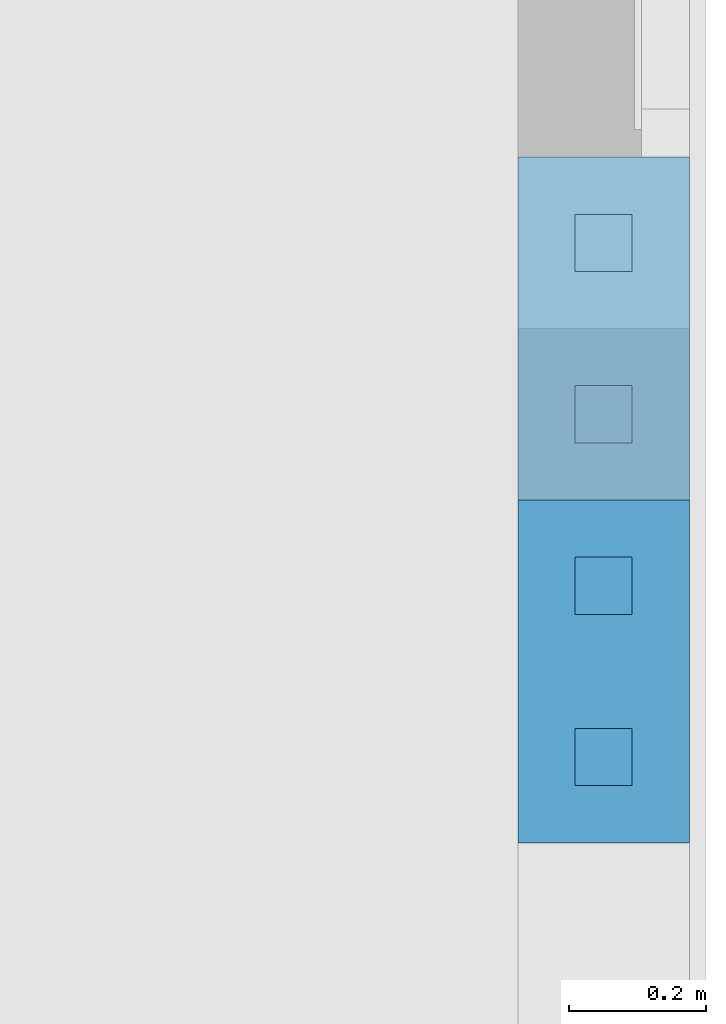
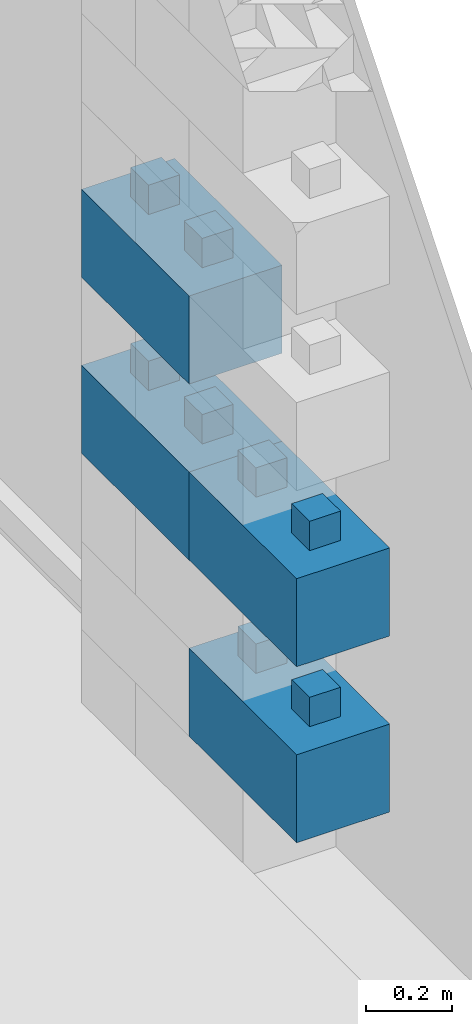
# One storey, part 2 of 8: 4 walls.
"""IFC4 building model written with IfcOpenShell, lengths in centimetres."""

import ifcopenshell
import ifcopenshell.guid

model = None  # the IFC model being written
_history = None  # IfcOwnerHistory: only IFC2X3 demands one
_inside = {}  # id of a spatial element -> (the spatial element, [elements in it])
_under = {}  # id of a project, library or spatial element -> (it, [spatial elements below it])
_declared = {}  # id of a project -> (the project, [libraries it declares])
_typed = {}  # id of a type object -> (the type object, [elements of that type])
_made_of = {}  # id of a material, layer set ... -> (it, [elements and type objects made of it])


def new_model(schema):
    """Start an empty IFC model of exactly this schema.

    Asked for "IFC4X3", IfcOpenShell would pick the latest addendum, in which some entities
    have other attributes; the version numbers below select the first issue.
    IFC2X3 requires an IfcOwnerHistory on every rooted entity: one is made here for all.
    """
    global model, _history
    if schema == "IFC4X3":
        model = ifcopenshell.file(schema_version=(4, 3, 0, 0))
    else:
        model = ifcopenshell.file(schema=schema)
    _inside.clear()
    _under.clear()
    _declared.clear()
    _typed.clear()
    _made_of.clear()
    _history = None
    if model.schema == "IFC2X3":
        org = make("IfcOrganization", Name="unknown")
        user = make(
            "IfcPersonAndOrganization",
            ThePerson=make("IfcPerson", FamilyName="unknown"),
            TheOrganization=org,
        )
        app = make(
            "IfcApplication",
            ApplicationDeveloper=org,
            Version="unknown",
            ApplicationFullName="unknown",
            ApplicationIdentifier="unknown",
        )
        _history = make(
            "IfcOwnerHistory",
            OwningUser=user,
            OwningApplication=app,
            ChangeAction="ADDED",
            CreationDate=0,
        )
    return model


def make(cls, **values):
    """One entity of the class cls with the attributes given. An attribute that is None is left unset."""
    return model.create_entity(
        cls, **{name: value for name, value in values.items() if value is not None}
    )


def entity(cls, *values):
    """Any entity or typed value of the class cls, its attributes in the order of the schema. None: left unset."""
    e = model.create_entity(cls)
    for i, value in enumerate(values):
        if value is not None:
            e[i] = value
    return e


def rooted(cls, **values):
    """An entity with a GlobalId (a new one), such as an element, a storey or a relation."""
    return make(cls, GlobalId=ifcopenshell.guid.new(), OwnerHistory=_history, **values)


def si_unit(unit_type, name, prefix=None):
    """IfcSIUnit, for example si_unit("LENGTHUNIT", "METRE", prefix="MILLI")."""
    return make("IfcSIUnit", UnitType=unit_type, Prefix=prefix, Name=name)


def converted_unit(unit_type, name, factor, base, dimensions=None, offset=None):
    """IfcConversionBasedUnit, such as the inch: factor (a typed value) times the base unit."""
    return make(
        "IfcConversionBasedUnit"
        if offset is None
        else "IfcConversionBasedUnitWithOffset",
        ConversionOffset=offset,
        Dimensions=None
        if dimensions is None
        else entity("IfcDimensionalExponents", *dimensions),
        UnitType=unit_type,
        Name=name,
        ConversionFactor=make(
            "IfcMeasureWithUnit", ValueComponent=factor, UnitComponent=base
        ),
    )


def assignment(units):
    """IfcUnitAssignment: the units of a project."""
    return None if units is None else make("IfcUnitAssignment", Units=units)


def point(xyz):
    """IfcCartesianPoint."""
    return None if xyz is None else make("IfcCartesianPoint", Coordinates=xyz)


def direction(xyz):
    """IfcDirection."""
    return None if xyz is None else make("IfcDirection", DirectionRatios=xyz)


def frame(location, z_axis=None, x_axis=None):
    """IfcAxis2Placement3D, a coordinate frame: its origin and axes. An axis left out is left unset."""
    return make(
        "IfcAxis2Placement3D",
        Location=point(location),
        Axis=direction(z_axis),
        RefDirection=direction(x_axis),
    )


def origin():
    """The frame at (0, 0, 0) with its axes left unset."""
    return frame((0.0, 0.0, 0.0))


def place(relative_to, where):
    """IfcLocalPlacement: puts the frame where relative to a parent placement (None: the world)."""
    return make(
        "IfcLocalPlacement", PlacementRelTo=relative_to, RelativePlacement=where
    )


def context(
    kind, dimensions, precision=None, world=None, true_north=None, identifier=None
):
    """IfcGeometricRepresentationContext, for example the 3D "Model" context."""
    return make(
        "IfcGeometricRepresentationContext",
        ContextIdentifier=identifier,
        ContextType=kind,
        CoordinateSpaceDimension=dimensions,
        Precision=precision,
        WorldCoordinateSystem=world,
        TrueNorth=true_north,
    )


def subcontext(parent, identifier, kind, view, scale=None):
    """IfcGeometricRepresentationSubContext, for example "Body" below "Model"."""
    return make(
        "IfcGeometricRepresentationSubContext",
        ContextIdentifier=identifier,
        ContextType=kind,
        ParentContext=parent,
        TargetScale=scale,
        TargetView=view,
    )


def project(units=None, contexts=None):
    """IfcProject with its units and contexts."""
    return rooted(
        "IfcProject",
        Name="project",
        RepresentationContexts=contexts,
        UnitsInContext=assignment(units),
    )


def spatial(cls, under=None, at=None, **own):
    """A site, building, storey or space (cls), placed at a placement, below another one or the project."""
    s = rooted(cls, ObjectPlacement=at, **own)
    if under is not None:
        _under.setdefault(under.id(), (under, []))[1].append(s)
    return s


def point_list(points):
    """IfcCartesianPointList2D or 3D."""
    cls = (
        "IfcCartesianPointList2D" if len(points[0]) == 2 else "IfcCartesianPointList3D"
    )
    return make(cls, CoordList=points)


def indexed_curve(points, segments=None, self_intersect=None):
    """IfcIndexedPolyCurve: lines and arcs through numbered points (the first is 1)."""
    return make(
        "IfcIndexedPolyCurve",
        Points=point_list(points),
        Segments=segments,
        SelfIntersect=self_intersect,
    )


def outline(outer, holes=None, kind="AREA"):
    """IfcArbitraryClosedProfileDef: a profile drawn as a closed curve; with holes, ...WithVoids."""
    if holes is None:
        return make("IfcArbitraryClosedProfileDef", ProfileType=kind, OuterCurve=outer)
    return make(
        "IfcArbitraryProfileDefWithVoids",
        ProfileType=kind,
        OuterCurve=outer,
        InnerCurves=holes,
    )


def extrude(swept, where, along, depth):
    """IfcExtrudedAreaSolid: the profile swept, set in the frame where, extruded along a direction by depth."""
    return make(
        "IfcExtrudedAreaSolid",
        SweptArea=swept,
        Position=where,
        ExtrudedDirection=direction(along),
        Depth=depth,
    )


def shape(context_of_items, identifier, shape_type, items):
    """IfcShapeRepresentation: the items that make up one representation, for example the "Body"."""
    return make(
        "IfcShapeRepresentation",
        ContextOfItems=context_of_items,
        RepresentationIdentifier=identifier,
        RepresentationType=shape_type,
        Items=items,
    )


def material(Name=None, Category=None):
    """IfcMaterial."""
    return make("IfcMaterial", Name=Name, Category=Category)


def made_of(thing, what):
    """Note that an element or type object is made of a material, layer set ...; save() writes the relation."""
    if what is not None:
        _made_of.setdefault(what.id(), (what, []))[1].append(thing)
    return thing


def type_object(cls, material=None, **own):
    """A type object (cls), such as IfcWallType, which elements share."""
    return made_of(rooted(cls, **own), material)


def element(
    cls,
    number,
    at=None,
    inside=None,
    cuts=None,
    type_object=None,
    material=None,
    context=None,
    identifier="Body",
    shape_type=None,
    held_by="IfcProductDefinitionShape",
    body=None,
    shapes=None,
    **own,
):
    """One element of the class cls, such as IfcWall. Its Tag is "e" and its number.

    at: its placement. inside: the storey or other place that contains it. cuts: it is an
    opening in that element (IfcRelVoidsElement). A single representation is given by context,
    identifier, shape_type and body (its items); several are given by shapes. held_by: the class
    of the entity that holds the representations. save() writes the other relations.
    """
    e = rooted(cls, Tag="e%d" % number, ObjectPlacement=at, **own)
    if body is not None:
        shapes = [shape(context, identifier, shape_type, body)]
    if shapes is not None:
        e.Representation = make(held_by, Representations=shapes)
    if inside is not None:
        _inside.setdefault(inside.id(), (inside, []))[1].append(e)
    if cuts is not None:
        rooted(
            "IfcRelVoidsElement", RelatingBuildingElement=cuts, RelatedOpeningElement=e
        )
    if type_object is not None:
        _typed.setdefault(type_object.id(), (type_object, []))[1].append(e)
    return made_of(e, material)


def aggregate(whole, parts):
    """IfcRelAggregates: a whole, such as a stair, and the parts it consists of."""
    return rooted("IfcRelAggregates", RelatingObject=whole, RelatedObjects=parts)


def save(model, path):
    """Write the relations noted so far, then the file.

    IfcRelAggregates (storeys below a building ...), IfcRelContainedInSpatialStructure (elements
    in a storey), IfcRelDefinesByType, IfcRelAssociatesMaterial and IfcRelDeclares: one each for
    every whole, place, type object, material and project.
    """
    for whole, parts in _under.values():
        aggregate(whole, parts)
    for where, things in _inside.values():
        rooted(
            "IfcRelContainedInSpatialStructure",
            RelatedElements=things,
            RelatingStructure=where,
        )
    for kind, things in _typed.values():
        rooted("IfcRelDefinesByType", RelatedObjects=things, RelatingType=kind)
    for what, things in _made_of.values():
        rooted("IfcRelAssociatesMaterial", RelatedObjects=things, RelatingMaterial=what)
    for by, libraries in _declared.values():
        rooted("IfcRelDeclares", RelatingContext=by, RelatedDefinitions=libraries)
    model.write(path)


model = new_model("IFC4")

# Units and contexts
model_context = context("Model", 3, precision=0.001, world=origin(), true_north=direction((0.0, 1.0)))
body_context = subcontext(model_context, "Body", "Model", "MODEL_VIEW")
ifc_project = project(units=[si_unit("LENGTHUNIT", "METRE", prefix="CENTI"), si_unit("AREAUNIT", "SQUARE_METRE"), si_unit("VOLUMEUNIT", "CUBIC_METRE"), converted_unit("PLANEANGLEUNIT", "DEGREE", entity("IfcPlaneAngleMeasure", 0.017453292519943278), si_unit("PLANEANGLEUNIT", "RADIAN"), dimensions=[0, 0, 0, 0, 0, 0, 0])], contexts=[model_context])

# Site, building, storey
site_placement = place(None, origin())
site = spatial("IfcSite", under=ifc_project, at=site_placement, Name="Default", CompositionType="ELEMENT")
building_placement = place(site_placement, origin())
building = spatial("IfcBuilding", under=site, at=building_placement, CompositionType="ELEMENT")
storey_placement = place(building_placement, frame((0.0, 0.0, -4.0)))
storey = spatial("IfcBuildingStorey", under=building, at=storey_placement, Name="L00__ABOVE Slab", CompositionType="ELEMENT", Elevation=-4.000000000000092)

# Walls
ifc_material = material(Name="Miscellaneous__Timber Block__Triqbriq, X", Category="Miscellaneous")
wall_type = type_object("IfcWallType", Name="Columns : wll_s__TIMBER BLOCK__Triqbriq, Full Width__wp : WS25", PredefinedType="SOLIDWALL", material=ifc_material)
wall_1_placement = place(storey_placement, frame((3156.8289147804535, 2253.5200309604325, 125.0), z_axis=(0.0, 0.0, 1.0), x_axis=(0.0, 1.0, 0.0)))
element("IfcWall", 1, at=wall_1_placement, inside=storey, type_object=wall_type, material=ifc_material, Name="Columns : wll_s__TIMBER BLOCK__Triqbriq, Full Width__wp : WS25", PredefinedType="SOLIDWALL", context=body_context, shape_type="SweptSolid", body=[
    extrude(outline(indexed_curve([(-4.166666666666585, -4.166666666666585), (4.166666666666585, -4.166666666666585), (4.166666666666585, 4.166666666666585), (-4.166666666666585, 4.166666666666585), (-4.166666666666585, -4.166666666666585)], self_intersect=False)), frame((12.500000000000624, -12.500000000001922, 16.666666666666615)), (0.0, 0.0, 1.0), 16.66666666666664),
    extrude(outline(indexed_curve([(-4.166666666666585, -4.166666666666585), (4.166666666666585, -4.166666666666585), (4.166666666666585, 4.166666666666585), (-4.166666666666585, 4.166666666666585), (-4.166666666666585, -4.166666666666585)], self_intersect=False)), frame((37.50000000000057, -12.500000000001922, 16.66666666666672)), (0.0, 0.0, 1.0), 16.66666666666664),
    extrude(outline(indexed_curve([(-4.166666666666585, -4.166666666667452), (4.166666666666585, -4.166666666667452), (4.166666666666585, 4.166666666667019), (-4.166666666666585, 4.166666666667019), (-4.166666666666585, -4.166666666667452)], self_intersect=False)), frame((4.166666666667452, -4.166666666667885, 8.333333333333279)), (0.0, 0.0, 1.0), 8.333333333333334),
    extrude(outline(indexed_curve([(-4.166666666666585, -4.166666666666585), (4.166666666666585, -4.166666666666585), (4.166666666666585, 4.166666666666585), (-4.166666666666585, 4.166666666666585), (-4.166666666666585, -4.166666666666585)], self_intersect=False)), frame((4.166666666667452, -20.833333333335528, 8.333333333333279)), (0.0, 0.0, 1.0), 8.333333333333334),
    extrude(outline(indexed_curve([(-4.166666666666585, -4.166666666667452), (4.166666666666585, -4.166666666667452), (4.166666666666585, 4.166666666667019), (-4.166666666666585, 4.166666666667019), (-4.166666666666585, -4.166666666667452)], self_intersect=False)), frame((45.833333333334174, -4.166666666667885, 8.333333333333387)), (0.0, 0.0, 1.0), 8.333333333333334),
    extrude(outline(indexed_curve([(-4.166666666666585, -4.166666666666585), (4.166666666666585, -4.166666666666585), (4.166666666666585, 4.166666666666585), (-4.166666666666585, 4.166666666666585), (-4.166666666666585, -4.166666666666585)], self_intersect=False)), frame((45.833333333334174, -20.833333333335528, 8.333333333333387)), (0.0, 0.0, 1.0), 8.333333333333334),
    extrude(outline(indexed_curve([(-8.333333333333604, -4.166666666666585), (8.33333333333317, -4.166666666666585), (8.33333333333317, 4.166666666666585), (-8.333333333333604, 4.166666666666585), (-8.333333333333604, -4.166666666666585)], self_intersect=False)), frame((25.0, -20.833333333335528, 8.333333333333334)), (0.0, 0.0, 1.0), 8.333333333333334),
    extrude(outline(indexed_curve([(-8.333333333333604, -4.166666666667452), (8.33333333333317, -4.166666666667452), (8.33333333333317, 4.166666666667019), (-8.333333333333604, 4.166666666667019), (-8.333333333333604, -4.166666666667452)], self_intersect=False)), frame((25.0, -4.166666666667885, 8.333333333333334)), (0.0, 0.0, 1.0), 8.333333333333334),
    extrude(outline(indexed_curve([(-24.999999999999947, -4.166666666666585), (24.999999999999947, -4.166666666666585), (24.999999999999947, 4.166666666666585), (-24.999999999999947, 4.166666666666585), (-24.999999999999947, -4.166666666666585)], self_intersect=False)), frame((25.0, -12.500000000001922, 8.333333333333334)), (0.0, 0.0, 1.0), 8.333333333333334),
    extrude(outline(indexed_curve([(-4.166666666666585, -12.50000000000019), (4.166666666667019, -12.50000000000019), (4.166666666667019, 12.500000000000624), (-4.166666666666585, 12.500000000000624), (-4.166666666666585, -12.50000000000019)], self_intersect=False)), frame((20.83333333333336, -12.500000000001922, 0.0)), (0.0, 0.0, 1.0), 8.333333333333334),
    extrude(outline(indexed_curve([(-4.166666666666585, -12.50000000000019), (4.166666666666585, -12.50000000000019), (4.166666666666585, 12.500000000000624), (-4.166666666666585, 12.500000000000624), (-4.166666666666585, -12.50000000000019)], self_intersect=False)), frame((29.166666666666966, -12.500000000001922, 0.0)), (0.0, 0.0, 1.0), 8.333333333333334),
    extrude(outline(indexed_curve([(-4.166666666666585, -12.50000000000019), (4.166666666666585, -12.50000000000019), (4.166666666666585, 12.500000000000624), (-4.166666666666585, 12.500000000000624), (-4.166666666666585, -12.50000000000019)], self_intersect=False)), frame((4.166666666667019, -12.500000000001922, 0.0)), (0.0, 0.0, 1.0), 8.333333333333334),
    extrude(outline(indexed_curve([(-4.166666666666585, -12.50000000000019), (4.166666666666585, -12.50000000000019), (4.166666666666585, 12.500000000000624), (-4.166666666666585, 12.500000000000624), (-4.166666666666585, -12.50000000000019)], self_intersect=False)), frame((45.83333333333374, -12.500000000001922, 0.0)), (0.0, 0.0, 1.0), 8.333333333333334),
    extrude(outline(indexed_curve([(-4.166666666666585, -4.166666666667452), (4.166666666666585, -4.166666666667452), (4.166666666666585, 4.166666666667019), (-4.166666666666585, 4.166666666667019), (-4.166666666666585, -4.166666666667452)], self_intersect=False)), frame((12.50000000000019, -4.166666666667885, 0.0)), (0.0, 0.0, 1.0), 24.999999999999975),
    extrude(outline(indexed_curve([(-4.166666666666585, -4.166666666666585), (4.166666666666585, -4.166666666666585), (4.166666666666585, 4.166666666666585), (-4.166666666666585, 4.166666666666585), (-4.166666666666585, -4.166666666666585)], self_intersect=False)), frame((12.50000000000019, -20.833333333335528, 0.0)), (0.0, 0.0, 1.0), 24.999999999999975),
    extrude(outline(indexed_curve([(-4.166666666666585, -4.166666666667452), (4.166666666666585, -4.166666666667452), (4.166666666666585, 4.166666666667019), (-4.166666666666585, 4.166666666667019), (-4.166666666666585, -4.166666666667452)], self_intersect=False)), frame((37.500000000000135, -4.166666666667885, 0.0)), (0.0, 0.0, 1.0), 24.999999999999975),
    extrude(outline(indexed_curve([(-4.166666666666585, -4.166666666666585), (4.166666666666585, -4.166666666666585), (4.166666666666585, 4.166666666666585), (-4.166666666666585, 4.166666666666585), (-4.166666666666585, -4.166666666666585)], self_intersect=False)), frame((37.500000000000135, -20.833333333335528, 0.0)), (0.0, 0.0, 1.0), 24.999999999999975),
    extrude(outline(indexed_curve([(-4.166666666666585, -12.50000000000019), (4.166666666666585, -12.50000000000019), (4.166666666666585, 12.500000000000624), (-4.166666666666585, 12.500000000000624), (-4.166666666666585, -12.50000000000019)], self_intersect=False)), frame((4.166666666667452, -12.500000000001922, 16.666666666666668)), (0.0, 0.0, 1.0), 8.333333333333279),
    extrude(outline(indexed_curve([(-4.166666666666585, -12.50000000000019), (4.166666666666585, -12.50000000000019), (4.166666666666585, 12.500000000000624), (-4.166666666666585, 12.500000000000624), (-4.166666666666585, -12.50000000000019)], self_intersect=False)), frame((20.833333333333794, -12.500000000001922, 16.66666666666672)), (0.0, 0.0, 1.0), 8.333333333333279),
    extrude(outline(indexed_curve([(-4.166666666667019, -12.50000000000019), (4.166666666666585, -12.50000000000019), (4.166666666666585, 12.500000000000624), (-4.166666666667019, 12.500000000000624), (-4.166666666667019, -12.50000000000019)], self_intersect=False)), frame((29.1666666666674, -12.500000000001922, 16.66666666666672)), (0.0, 0.0, 1.0), 8.333333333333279),
    extrude(outline(indexed_curve([(-4.166666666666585, -12.50000000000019), (4.166666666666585, -12.50000000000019), (4.166666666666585, 12.500000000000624), (-4.166666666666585, 12.500000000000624), (-4.166666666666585, -12.50000000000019)], self_intersect=False)), frame((45.833333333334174, -12.500000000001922, 16.666666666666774)), (0.0, 0.0, 1.0), 8.333333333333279),
])
wall_2_placement = place(storey_placement, frame((3156.828914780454, 2203.5200309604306, 75.0), z_axis=(0.0, 0.0, 1.0), x_axis=(0.0, 1.0, 0.0)))
element("IfcWall", 2, at=wall_2_placement, inside=storey, type_object=wall_type, material=ifc_material, Name="Columns : wll_s__TIMBER BLOCK__Triqbriq, Full Width__wp : WS25", PredefinedType="SOLIDWALL", context=body_context, shape_type="SweptSolid", body=[
    extrude(outline(indexed_curve([(-4.166666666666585, -4.166666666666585), (4.166666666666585, -4.166666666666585), (4.166666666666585, 4.166666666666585), (-4.166666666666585, 4.166666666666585), (-4.166666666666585, -4.166666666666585)], self_intersect=False)), frame((12.500000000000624, -12.500000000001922, 16.666666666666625)), (0.0, 0.0, 1.0), 16.66666666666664),
    extrude(outline(indexed_curve([(-4.166666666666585, -4.166666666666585), (4.166666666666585, -4.166666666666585), (4.166666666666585, 4.166666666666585), (-4.166666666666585, 4.166666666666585), (-4.166666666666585, -4.166666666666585)], self_intersect=False)), frame((37.50000000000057, -12.500000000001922, 16.66666666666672)), (0.0, 0.0, 1.0), 16.66666666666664),
    extrude(outline(indexed_curve([(-4.166666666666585, -4.166666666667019), (4.166666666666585, -4.166666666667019), (4.166666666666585, 4.166666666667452), (-4.166666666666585, 4.166666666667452), (-4.166666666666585, -4.166666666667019)], self_intersect=False)), frame((4.166666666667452, -4.166666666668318, 8.333333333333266)), (0.0, 0.0, 1.0), 8.333333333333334),
    extrude(outline(indexed_curve([(-4.166666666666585, -4.166666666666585), (4.166666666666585, -4.166666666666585), (4.166666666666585, 4.166666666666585), (-4.166666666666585, 4.166666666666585), (-4.166666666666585, -4.166666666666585)], self_intersect=False)), frame((4.166666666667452, -20.833333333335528, 8.333333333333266)), (0.0, 0.0, 1.0), 8.333333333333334),
    extrude(outline(indexed_curve([(-4.166666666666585, -4.166666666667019), (4.166666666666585, -4.166666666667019), (4.166666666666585, 4.166666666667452), (-4.166666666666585, 4.166666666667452), (-4.166666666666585, -4.166666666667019)], self_intersect=False)), frame((45.833333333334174, -4.166666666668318, 8.333333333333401)), (0.0, 0.0, 1.0), 8.333333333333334),
    extrude(outline(indexed_curve([(-4.166666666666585, -4.166666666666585), (4.166666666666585, -4.166666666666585), (4.166666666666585, 4.166666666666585), (-4.166666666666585, 4.166666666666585), (-4.166666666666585, -4.166666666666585)], self_intersect=False)), frame((45.833333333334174, -20.833333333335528, 8.333333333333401)), (0.0, 0.0, 1.0), 8.333333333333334),
    extrude(outline(indexed_curve([(-8.33333333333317, -4.166666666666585), (8.333333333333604, -4.166666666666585), (8.333333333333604, 4.166666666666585), (-8.33333333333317, 4.166666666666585), (-8.33333333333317, -4.166666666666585)], self_intersect=False)), frame((25.0, -20.833333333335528, 8.333333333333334)), (0.0, 0.0, 1.0), 8.333333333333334),
    extrude(outline(indexed_curve([(-8.33333333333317, -4.166666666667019), (8.333333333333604, -4.166666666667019), (8.333333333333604, 4.166666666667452), (-8.33333333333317, 4.166666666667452), (-8.33333333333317, -4.166666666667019)], self_intersect=False)), frame((25.0, -4.166666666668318, 8.333333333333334)), (0.0, 0.0, 1.0), 8.333333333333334),
    extrude(outline(indexed_curve([(-24.999999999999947, -4.166666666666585), (24.999999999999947, -4.166666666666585), (24.999999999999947, 4.166666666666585), (-24.999999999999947, 4.166666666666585), (-24.999999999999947, -4.166666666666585)], self_intersect=False)), frame((25.0, -12.500000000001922, 8.333333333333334)), (0.0, 0.0, 1.0), 8.333333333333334),
    extrude(outline(indexed_curve([(-4.166666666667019, -12.50000000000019), (4.166666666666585, -12.50000000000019), (4.166666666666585, 12.500000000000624), (-4.166666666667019, 12.500000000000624), (-4.166666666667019, -12.50000000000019)], self_intersect=False)), frame((20.833333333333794, -12.500000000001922, 0.0)), (0.0, 0.0, 1.0), 8.333333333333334),
    extrude(outline(indexed_curve([(-4.166666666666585, -12.50000000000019), (4.166666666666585, -12.50000000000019), (4.166666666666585, 12.500000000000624), (-4.166666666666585, 12.500000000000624), (-4.166666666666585, -12.50000000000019)], self_intersect=False)), frame((29.166666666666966, -12.500000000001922, 0.0)), (0.0, 0.0, 1.0), 8.333333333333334),
    extrude(outline(indexed_curve([(-4.166666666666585, -12.50000000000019), (4.166666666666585, -12.50000000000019), (4.166666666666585, 12.500000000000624), (-4.166666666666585, 12.500000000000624), (-4.166666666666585, -12.50000000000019)], self_intersect=False)), frame((4.166666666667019, -12.500000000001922, 0.0)), (0.0, 0.0, 1.0), 8.333333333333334),
    extrude(outline(indexed_curve([(-4.166666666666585, -12.50000000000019), (4.166666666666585, -12.50000000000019), (4.166666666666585, 12.500000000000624), (-4.166666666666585, 12.500000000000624), (-4.166666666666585, -12.50000000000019)], self_intersect=False)), frame((45.83333333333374, -12.500000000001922, 0.0)), (0.0, 0.0, 1.0), 8.333333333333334),
    extrude(outline(indexed_curve([(-4.166666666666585, -4.166666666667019), (4.166666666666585, -4.166666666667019), (4.166666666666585, 4.166666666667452), (-4.166666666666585, 4.166666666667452), (-4.166666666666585, -4.166666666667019)], self_intersect=False)), frame((12.50000000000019, -4.166666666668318, 0.0)), (0.0, 0.0, 1.0), 24.999999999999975),
    extrude(outline(indexed_curve([(-4.166666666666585, -4.166666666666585), (4.166666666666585, -4.166666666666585), (4.166666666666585, 4.166666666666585), (-4.166666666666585, 4.166666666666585), (-4.166666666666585, -4.166666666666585)], self_intersect=False)), frame((12.50000000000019, -20.833333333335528, 0.0)), (0.0, 0.0, 1.0), 24.999999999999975),
    extrude(outline(indexed_curve([(-4.166666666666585, -4.166666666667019), (4.166666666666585, -4.166666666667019), (4.166666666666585, 4.166666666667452), (-4.166666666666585, 4.166666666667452), (-4.166666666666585, -4.166666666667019)], self_intersect=False)), frame((37.500000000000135, -4.166666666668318, 0.0)), (0.0, 0.0, 1.0), 24.999999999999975),
    extrude(outline(indexed_curve([(-4.166666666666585, -4.166666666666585), (4.166666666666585, -4.166666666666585), (4.166666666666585, 4.166666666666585), (-4.166666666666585, 4.166666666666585), (-4.166666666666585, -4.166666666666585)], self_intersect=False)), frame((37.500000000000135, -20.833333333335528, 0.0)), (0.0, 0.0, 1.0), 24.999999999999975),
    extrude(outline(indexed_curve([(-4.166666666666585, -12.50000000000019), (4.166666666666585, -12.50000000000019), (4.166666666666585, 12.500000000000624), (-4.166666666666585, 12.500000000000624), (-4.166666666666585, -12.50000000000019)], self_intersect=False)), frame((4.166666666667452, -12.500000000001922, 16.66666666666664)), (0.0, 0.0, 1.0), 8.333333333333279),
    extrude(outline(indexed_curve([(-4.166666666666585, -12.50000000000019), (4.166666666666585, -12.50000000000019), (4.166666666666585, 12.500000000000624), (-4.166666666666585, 12.500000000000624), (-4.166666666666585, -12.50000000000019)], self_intersect=False)), frame((20.833333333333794, -12.500000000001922, 16.66666666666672)), (0.0, 0.0, 1.0), 8.333333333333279),
    extrude(outline(indexed_curve([(-4.166666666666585, -12.50000000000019), (4.166666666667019, -12.50000000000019), (4.166666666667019, 12.500000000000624), (-4.166666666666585, 12.500000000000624), (-4.166666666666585, -12.50000000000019)], self_intersect=False)), frame((29.166666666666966, -12.500000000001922, 16.666666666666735)), (0.0, 0.0, 1.0), 8.333333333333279),
    extrude(outline(indexed_curve([(-4.166666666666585, -12.50000000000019), (4.166666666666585, -12.50000000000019), (4.166666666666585, 12.500000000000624), (-4.166666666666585, 12.500000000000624), (-4.166666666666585, -12.50000000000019)], self_intersect=False)), frame((45.833333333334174, -12.500000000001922, 16.66666666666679)), (0.0, 0.0, 1.0), 8.333333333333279),
])
wall_3_placement = place(storey_placement, frame((3156.828914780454, 2253.5200309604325, 75.0), z_axis=(0.0, 0.0, 1.0), x_axis=(0.0, 1.0, 0.0)))
element("IfcWall", 3, at=wall_3_placement, inside=storey, type_object=wall_type, material=ifc_material, Name="Columns : wll_s__TIMBER BLOCK__Triqbriq, Full Width__wp : WS25", PredefinedType="SOLIDWALL", context=body_context, shape_type="SweptSolid", body=[
    extrude(outline(indexed_curve([(-4.166666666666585, -4.166666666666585), (4.166666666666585, -4.166666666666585), (4.166666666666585, 4.166666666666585), (-4.166666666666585, 4.166666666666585), (-4.166666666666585, -4.166666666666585)], self_intersect=False)), frame((12.500000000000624, -12.500000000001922, 16.666666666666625)), (0.0, 0.0, 1.0), 16.66666666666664),
    extrude(outline(indexed_curve([(-4.166666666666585, -4.166666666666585), (4.166666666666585, -4.166666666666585), (4.166666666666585, 4.166666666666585), (-4.166666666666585, 4.166666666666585), (-4.166666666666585, -4.166666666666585)], self_intersect=False)), frame((37.50000000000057, -12.500000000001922, 16.66666666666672)), (0.0, 0.0, 1.0), 16.66666666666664),
    extrude(outline(indexed_curve([(-4.166666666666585, -4.166666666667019), (4.166666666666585, -4.166666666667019), (4.166666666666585, 4.166666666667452), (-4.166666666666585, 4.166666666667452), (-4.166666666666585, -4.166666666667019)], self_intersect=False)), frame((4.166666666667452, -4.166666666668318, 8.333333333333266)), (0.0, 0.0, 1.0), 8.333333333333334),
    extrude(outline(indexed_curve([(-4.166666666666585, -4.166666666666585), (4.166666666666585, -4.166666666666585), (4.166666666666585, 4.166666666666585), (-4.166666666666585, 4.166666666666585), (-4.166666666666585, -4.166666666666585)], self_intersect=False)), frame((4.166666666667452, -20.833333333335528, 8.333333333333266)), (0.0, 0.0, 1.0), 8.333333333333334),
    extrude(outline(indexed_curve([(-4.166666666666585, -4.166666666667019), (4.166666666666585, -4.166666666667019), (4.166666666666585, 4.166666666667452), (-4.166666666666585, 4.166666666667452), (-4.166666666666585, -4.166666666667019)], self_intersect=False)), frame((45.833333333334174, -4.166666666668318, 8.333333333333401)), (0.0, 0.0, 1.0), 8.333333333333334),
    extrude(outline(indexed_curve([(-4.166666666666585, -4.166666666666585), (4.166666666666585, -4.166666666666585), (4.166666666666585, 4.166666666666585), (-4.166666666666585, 4.166666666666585), (-4.166666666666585, -4.166666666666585)], self_intersect=False)), frame((45.833333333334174, -20.833333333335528, 8.333333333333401)), (0.0, 0.0, 1.0), 8.333333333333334),
    extrude(outline(indexed_curve([(-8.333333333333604, -4.166666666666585), (8.33333333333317, -4.166666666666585), (8.33333333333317, 4.166666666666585), (-8.333333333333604, 4.166666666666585), (-8.333333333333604, -4.166666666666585)], self_intersect=False)), frame((25.0, -20.833333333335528, 8.333333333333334)), (0.0, 0.0, 1.0), 8.333333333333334),
    extrude(outline(indexed_curve([(-8.333333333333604, -4.166666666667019), (8.33333333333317, -4.166666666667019), (8.33333333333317, 4.166666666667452), (-8.333333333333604, 4.166666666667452), (-8.333333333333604, -4.166666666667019)], self_intersect=False)), frame((25.0, -4.166666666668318, 8.333333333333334)), (0.0, 0.0, 1.0), 8.333333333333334),
    extrude(outline(indexed_curve([(-24.999999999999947, -4.166666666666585), (24.999999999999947, -4.166666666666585), (24.999999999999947, 4.166666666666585), (-24.999999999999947, 4.166666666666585), (-24.999999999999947, -4.166666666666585)], self_intersect=False)), frame((25.0, -12.500000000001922, 8.333333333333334)), (0.0, 0.0, 1.0), 8.333333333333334),
    extrude(outline(indexed_curve([(-4.166666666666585, -12.50000000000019), (4.166666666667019, -12.50000000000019), (4.166666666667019, 12.500000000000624), (-4.166666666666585, 12.500000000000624), (-4.166666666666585, -12.50000000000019)], self_intersect=False)), frame((20.83333333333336, -12.500000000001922, 0.0)), (0.0, 0.0, 1.0), 8.333333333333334),
    extrude(outline(indexed_curve([(-4.166666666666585, -12.50000000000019), (4.166666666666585, -12.50000000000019), (4.166666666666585, 12.500000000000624), (-4.166666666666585, 12.500000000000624), (-4.166666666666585, -12.50000000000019)], self_intersect=False)), frame((29.166666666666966, -12.500000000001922, 0.0)), (0.0, 0.0, 1.0), 8.333333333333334),
    extrude(outline(indexed_curve([(-4.166666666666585, -12.50000000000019), (4.166666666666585, -12.50000000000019), (4.166666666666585, 12.500000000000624), (-4.166666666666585, 12.500000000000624), (-4.166666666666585, -12.50000000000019)], self_intersect=False)), frame((4.166666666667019, -12.500000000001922, 0.0)), (0.0, 0.0, 1.0), 8.333333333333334),
    extrude(outline(indexed_curve([(-4.166666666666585, -12.50000000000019), (4.166666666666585, -12.50000000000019), (4.166666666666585, 12.500000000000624), (-4.166666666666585, 12.500000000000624), (-4.166666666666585, -12.50000000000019)], self_intersect=False)), frame((45.83333333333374, -12.500000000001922, 0.0)), (0.0, 0.0, 1.0), 8.333333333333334),
    extrude(outline(indexed_curve([(-4.166666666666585, -4.166666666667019), (4.166666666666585, -4.166666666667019), (4.166666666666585, 4.166666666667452), (-4.166666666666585, 4.166666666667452), (-4.166666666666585, -4.166666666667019)], self_intersect=False)), frame((12.50000000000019, -4.166666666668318, 0.0)), (0.0, 0.0, 1.0), 24.999999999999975),
    extrude(outline(indexed_curve([(-4.166666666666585, -4.166666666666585), (4.166666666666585, -4.166666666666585), (4.166666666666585, 4.166666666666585), (-4.166666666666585, 4.166666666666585), (-4.166666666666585, -4.166666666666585)], self_intersect=False)), frame((12.50000000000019, -20.833333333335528, 0.0)), (0.0, 0.0, 1.0), 24.999999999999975),
    extrude(outline(indexed_curve([(-4.166666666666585, -4.166666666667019), (4.166666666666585, -4.166666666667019), (4.166666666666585, 4.166666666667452), (-4.166666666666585, 4.166666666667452), (-4.166666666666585, -4.166666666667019)], self_intersect=False)), frame((37.500000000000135, -4.166666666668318, 0.0)), (0.0, 0.0, 1.0), 24.999999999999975),
    extrude(outline(indexed_curve([(-4.166666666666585, -4.166666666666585), (4.166666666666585, -4.166666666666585), (4.166666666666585, 4.166666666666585), (-4.166666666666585, 4.166666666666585), (-4.166666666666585, -4.166666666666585)], self_intersect=False)), frame((37.500000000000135, -20.833333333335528, 0.0)), (0.0, 0.0, 1.0), 24.999999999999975),
    extrude(outline(indexed_curve([(-4.166666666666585, -12.50000000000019), (4.166666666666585, -12.50000000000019), (4.166666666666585, 12.500000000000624), (-4.166666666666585, 12.500000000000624), (-4.166666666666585, -12.50000000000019)], self_intersect=False)), frame((4.166666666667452, -12.500000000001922, 16.66666666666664)), (0.0, 0.0, 1.0), 8.333333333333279),
    extrude(outline(indexed_curve([(-4.166666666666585, -12.50000000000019), (4.166666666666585, -12.50000000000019), (4.166666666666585, 12.500000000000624), (-4.166666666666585, 12.500000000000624), (-4.166666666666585, -12.50000000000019)], self_intersect=False)), frame((20.833333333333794, -12.500000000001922, 16.66666666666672)), (0.0, 0.0, 1.0), 8.333333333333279),
    extrude(outline(indexed_curve([(-4.166666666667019, -12.50000000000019), (4.166666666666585, -12.50000000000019), (4.166666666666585, 12.500000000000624), (-4.166666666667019, 12.500000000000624), (-4.166666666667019, -12.50000000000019)], self_intersect=False)), frame((29.1666666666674, -12.500000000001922, 16.666666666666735)), (0.0, 0.0, 1.0), 8.333333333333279),
    extrude(outline(indexed_curve([(-4.166666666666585, -12.50000000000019), (4.166666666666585, -12.50000000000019), (4.166666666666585, 12.500000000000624), (-4.166666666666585, 12.500000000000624), (-4.166666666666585, -12.50000000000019)], self_intersect=False)), frame((45.833333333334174, -12.500000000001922, 16.66666666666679)), (0.0, 0.0, 1.0), 8.333333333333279),
])
wall_4_placement = place(storey_placement, frame((3156.828914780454, 2203.5200309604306, 25.0), z_axis=(0.0, 0.0, 1.0), x_axis=(0.0, 1.0, 0.0)))
element("IfcWall", 4, at=wall_4_placement, inside=storey, type_object=wall_type, material=ifc_material, Name="Columns : wll_s__TIMBER BLOCK__Triqbriq, Full Width__wp : WS25", PredefinedType="SOLIDWALL", context=body_context, shape_type="SweptSolid", body=[
    extrude(outline(indexed_curve([(-4.166666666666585, -4.166666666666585), (4.166666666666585, -4.166666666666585), (4.166666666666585, 4.166666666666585), (-4.166666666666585, 4.166666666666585), (-4.166666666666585, -4.166666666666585)], self_intersect=False)), frame((12.500000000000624, -12.500000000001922, 16.66666666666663)), (0.0, 0.0, 1.0), 16.666666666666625),
    extrude(outline(indexed_curve([(-4.166666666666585, -4.166666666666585), (4.166666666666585, -4.166666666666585), (4.166666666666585, 4.166666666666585), (-4.166666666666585, 4.166666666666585), (-4.166666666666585, -4.166666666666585)], self_intersect=False)), frame((37.50000000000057, -12.500000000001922, 16.66666666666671)), (0.0, 0.0, 1.0), 16.666666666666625),
    extrude(outline(indexed_curve([(-4.166666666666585, -4.166666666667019), (4.166666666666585, -4.166666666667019), (4.166666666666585, 4.166666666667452), (-4.166666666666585, 4.166666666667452), (-4.166666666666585, -4.166666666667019)], self_intersect=False)), frame((4.166666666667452, -4.166666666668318, 8.33333333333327)), (0.0, 0.0, 1.0), 8.333333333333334),
    extrude(outline(indexed_curve([(-4.166666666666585, -4.166666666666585), (4.166666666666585, -4.166666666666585), (4.166666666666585, 4.166666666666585), (-4.166666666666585, 4.166666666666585), (-4.166666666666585, -4.166666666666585)], self_intersect=False)), frame((4.166666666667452, -20.833333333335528, 8.33333333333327)), (0.0, 0.0, 1.0), 8.333333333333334),
    extrude(outline(indexed_curve([(-4.166666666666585, -4.166666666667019), (4.166666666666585, -4.166666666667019), (4.166666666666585, 4.166666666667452), (-4.166666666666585, 4.166666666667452), (-4.166666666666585, -4.166666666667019)], self_intersect=False)), frame((45.833333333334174, -4.166666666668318, 8.333333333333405)), (0.0, 0.0, 1.0), 8.333333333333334),
    extrude(outline(indexed_curve([(-4.166666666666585, -4.166666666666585), (4.166666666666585, -4.166666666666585), (4.166666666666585, 4.166666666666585), (-4.166666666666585, 4.166666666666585), (-4.166666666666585, -4.166666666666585)], self_intersect=False)), frame((45.833333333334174, -20.833333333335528, 8.333333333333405)), (0.0, 0.0, 1.0), 8.333333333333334),
    extrude(outline(indexed_curve([(-8.33333333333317, -4.166666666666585), (8.333333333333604, -4.166666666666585), (8.333333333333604, 4.166666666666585), (-8.33333333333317, 4.166666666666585), (-8.33333333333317, -4.166666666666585)], self_intersect=False)), frame((25.0, -20.833333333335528, 8.333333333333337)), (0.0, 0.0, 1.0), 8.333333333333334),
    extrude(outline(indexed_curve([(-8.33333333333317, -4.166666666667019), (8.333333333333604, -4.166666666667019), (8.333333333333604, 4.166666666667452), (-8.33333333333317, 4.166666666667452), (-8.33333333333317, -4.166666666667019)], self_intersect=False)), frame((25.0, -4.166666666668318, 8.333333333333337)), (0.0, 0.0, 1.0), 8.333333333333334),
    extrude(outline(indexed_curve([(-24.999999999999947, -4.166666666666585), (24.999999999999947, -4.166666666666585), (24.999999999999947, 4.166666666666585), (-24.999999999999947, 4.166666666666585), (-24.999999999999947, -4.166666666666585)], self_intersect=False)), frame((25.0, -12.500000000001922, 8.333333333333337)), (0.0, 0.0, 1.0), 8.333333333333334),
    extrude(outline(indexed_curve([(-4.166666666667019, -12.50000000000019), (4.166666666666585, -12.50000000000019), (4.166666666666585, 12.500000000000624), (-4.166666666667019, 12.500000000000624), (-4.166666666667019, -12.50000000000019)], self_intersect=False)), frame((20.833333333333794, -12.500000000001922, 0.0)), (0.0, 0.0, 1.0), 8.333333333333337),
    extrude(outline(indexed_curve([(-4.166666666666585, -12.50000000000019), (4.166666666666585, -12.50000000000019), (4.166666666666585, 12.500000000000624), (-4.166666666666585, 12.500000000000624), (-4.166666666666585, -12.50000000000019)], self_intersect=False)), frame((29.166666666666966, -12.500000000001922, 0.0)), (0.0, 0.0, 1.0), 8.333333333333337),
    extrude(outline(indexed_curve([(-4.166666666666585, -12.50000000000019), (4.166666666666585, -12.50000000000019), (4.166666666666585, 12.500000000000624), (-4.166666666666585, 12.500000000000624), (-4.166666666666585, -12.50000000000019)], self_intersect=False)), frame((4.166666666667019, -12.500000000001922, 0.0)), (0.0, 0.0, 1.0), 8.333333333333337),
    extrude(outline(indexed_curve([(-4.166666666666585, -12.50000000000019), (4.166666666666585, -12.50000000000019), (4.166666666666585, 12.500000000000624), (-4.166666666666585, 12.500000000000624), (-4.166666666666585, -12.50000000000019)], self_intersect=False)), frame((45.83333333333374, -12.500000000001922, 0.0)), (0.0, 0.0, 1.0), 8.333333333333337),
    extrude(outline(indexed_curve([(-4.166666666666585, -4.166666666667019), (4.166666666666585, -4.166666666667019), (4.166666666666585, 4.166666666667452), (-4.166666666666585, 4.166666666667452), (-4.166666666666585, -4.166666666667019)], self_intersect=False)), frame((12.50000000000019, -4.166666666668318, 0.0)), (0.0, 0.0, 1.0), 24.99999999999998),
    extrude(outline(indexed_curve([(-4.166666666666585, -4.166666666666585), (4.166666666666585, -4.166666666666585), (4.166666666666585, 4.166666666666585), (-4.166666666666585, 4.166666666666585), (-4.166666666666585, -4.166666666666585)], self_intersect=False)), frame((12.50000000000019, -20.833333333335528, 0.0)), (0.0, 0.0, 1.0), 24.99999999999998),
    extrude(outline(indexed_curve([(-4.166666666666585, -4.166666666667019), (4.166666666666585, -4.166666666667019), (4.166666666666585, 4.166666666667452), (-4.166666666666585, 4.166666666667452), (-4.166666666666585, -4.166666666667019)], self_intersect=False)), frame((37.500000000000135, -4.166666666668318, 0.0)), (0.0, 0.0, 1.0), 24.99999999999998),
    extrude(outline(indexed_curve([(-4.166666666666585, -4.166666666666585), (4.166666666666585, -4.166666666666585), (4.166666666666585, 4.166666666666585), (-4.166666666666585, 4.166666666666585), (-4.166666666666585, -4.166666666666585)], self_intersect=False)), frame((37.500000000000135, -20.833333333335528, 0.0)), (0.0, 0.0, 1.0), 24.99999999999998),
    extrude(outline(indexed_curve([(-4.166666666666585, -12.50000000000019), (4.166666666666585, -12.50000000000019), (4.166666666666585, 12.500000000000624), (-4.166666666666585, 12.500000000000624), (-4.166666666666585, -12.50000000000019)], self_intersect=False)), frame((4.166666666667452, -12.500000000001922, 16.666666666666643)), (0.0, 0.0, 1.0), 8.333333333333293),
    extrude(outline(indexed_curve([(-4.166666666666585, -12.50000000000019), (4.166666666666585, -12.50000000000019), (4.166666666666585, 12.500000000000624), (-4.166666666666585, 12.500000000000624), (-4.166666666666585, -12.50000000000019)], self_intersect=False)), frame((20.833333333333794, -12.500000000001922, 16.666666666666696)), (0.0, 0.0, 1.0), 8.333333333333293),
    extrude(outline(indexed_curve([(-4.166666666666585, -12.50000000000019), (4.166666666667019, -12.50000000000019), (4.166666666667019, 12.500000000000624), (-4.166666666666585, 12.500000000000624), (-4.166666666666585, -12.50000000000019)], self_intersect=False)), frame((29.166666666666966, -12.500000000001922, 16.666666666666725)), (0.0, 0.0, 1.0), 8.333333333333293),
    extrude(outline(indexed_curve([(-4.166666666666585, -12.50000000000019), (4.166666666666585, -12.50000000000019), (4.166666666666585, 12.500000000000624), (-4.166666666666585, 12.500000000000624), (-4.166666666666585, -12.50000000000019)], self_intersect=False)), frame((45.833333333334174, -12.500000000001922, 16.666666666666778)), (0.0, 0.0, 1.0), 8.333333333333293),
])

save(model, "model.ifc")
